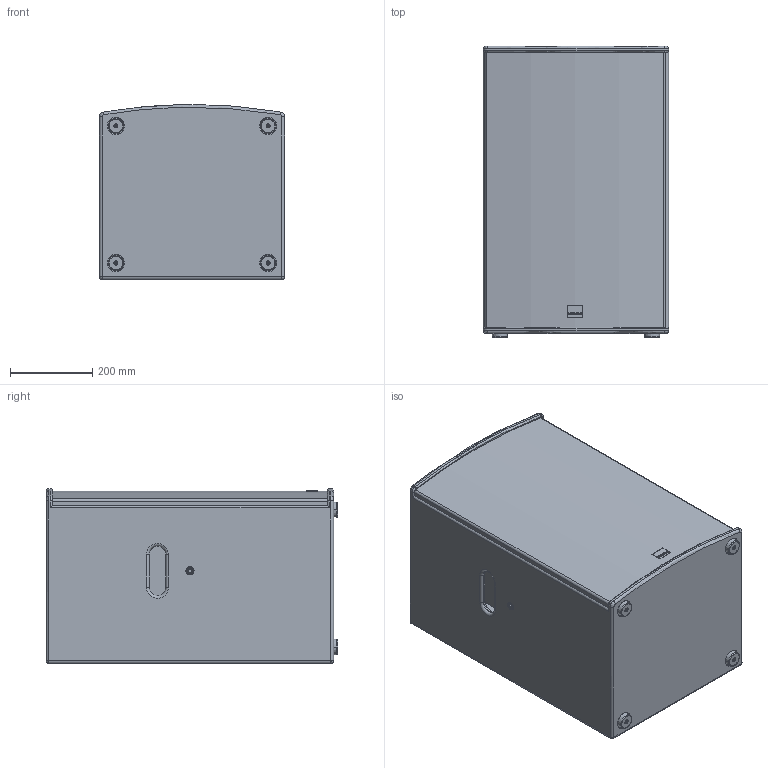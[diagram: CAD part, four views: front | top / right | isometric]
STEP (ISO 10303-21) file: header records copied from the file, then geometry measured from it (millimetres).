
FILE_DESCRIPTION (( 'STEP AP203' ), '1' );
FILE_NAME ('SEEBURG_A8-Sub.STEP', '2012-09-28T08:21:42', ( 'Fabian' ), ( '' ), 'SwSTEP 2.0', 'SolidWorks 2009', '' );
FILE_SCHEMA (( 'CONFIG_CONTROL_DESIGN' ));
Length unit declared in the file: millimetre
Products named in the file (2): A8-Sub; SEEBURG_A8-Sub
Assembly tree (1 placements, depth 2):
  SEEBURG_A8-Sub
    A8-Sub
Bounding box: 450 x 708 x 425 mm (x, y, z)
Surface area: 3597565.8 mm2 (no closed solid volume)
Topology: 0 solids, 19 shells, 507 faces, 1209 edges, 769 vertices
Faces by surface type: cylinder 201, plane 181, cone 86, torus 27, sphere 7, bspline 5
Entity records: 16141 total; most frequent: CARTESIAN_POINT 3837, DIRECTION 2723, ORIENTED_EDGE 2396, EDGE_CURVE 1205, AXIS2_PLACEMENT_3D 1051, VERTEX_POINT 767, VECTOR 621, LINE 621
